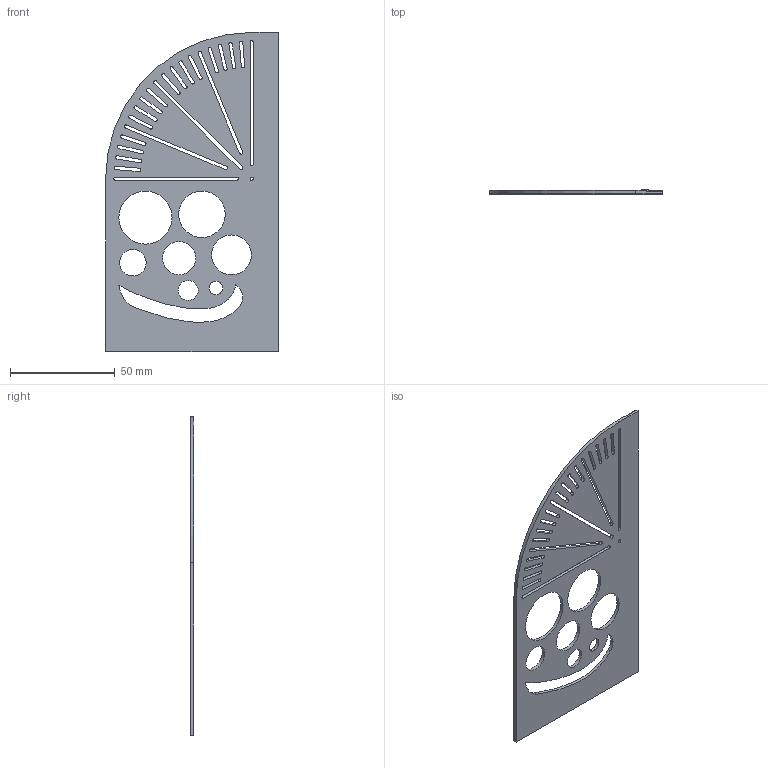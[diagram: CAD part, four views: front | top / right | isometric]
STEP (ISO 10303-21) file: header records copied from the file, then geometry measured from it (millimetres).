
FILE_DESCRIPTION(/* description */ (''),/* implementation_level */ '2;1');
FILE_NAME(/* name */ 'Pocket Drafting Stencil v2.step',/* time_stamp */ '2022-11-28T08:56:06-05:00',/* author */ (''),/* organization */ (''),/* preprocessor_version */ 'ST-DEVELOPER v19.2',/* originating_system */ 'Autodesk Translation Framework v11.17.0.187',/* authorisation */ '');
FILE_SCHEMA (('AUTOMOTIVE_DESIGN { 1 0 10303 214 3 1 1 }'));
Length unit declared in the file: inch
Products named in the file (1): Pocket Drafting Stencil
Bounding box: 82.55 x 1.84 x 152.4 mm (x, y, z)
Volume: 13569.7 mm3; surface area: 21034.2 mm2
Topology: 1 solids, 1 shells, 621 faces, 1833 edges, 1222 vertices
Faces by surface type: plane 370, bspline 102, cone 96, cylinder 53
Full cylindrical faces by diameter (mm): 1.587 x1, 6.35 x1, 9.525 x1, 12.7 x1, 15.875 x1, 19.05 x1, 22.225 x1, 25.4 x1
Entity records: 21309 total; most frequent: CARTESIAN_POINT 4983, ORIENTED_EDGE 3666, DIRECTION 2967, EDGE_CURVE 1833, LINE 1331, VECTOR 1331, VERTEX_POINT 1222, AXIS2_PLACEMENT_3D 818
